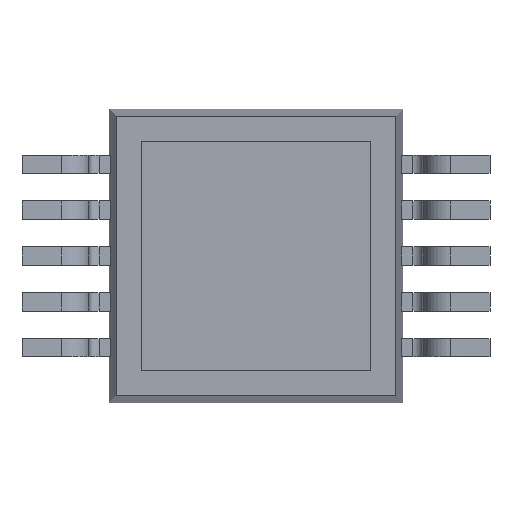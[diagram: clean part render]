
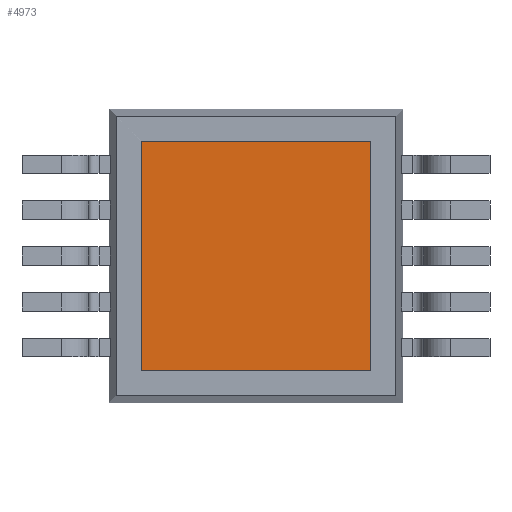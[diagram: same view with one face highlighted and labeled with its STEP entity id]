
A CAD part, front view. The second image highlights one B-rep face of the part: STEP entity #4973.
In plain terms, the highlighted planar face has unit normal (0, -1, 0).
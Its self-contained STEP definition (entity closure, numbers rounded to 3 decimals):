
#1 = VECTOR ( 'NONE', #2236, 1000. ) ;
#313 = LINE ( 'NONE', #2177, #323 ) ;
#323 = VECTOR ( 'NONE', #2182, 1000. ) ;
#329 = LINE ( 'NONE', #2187, #335 ) ;
#335 = VECTOR ( 'NONE', #2188, 1000. ) ;
#379 = LINE ( 'NONE', #2218, #385 ) ;
#385 = VECTOR ( 'NONE', #2219, 1000. ) ;
#411 = LINE ( 'NONE', #2239, #1 ) ;
#1003 = VERTEX_POINT ( 'NONE', #2393 ) ;
#1004 = VERTEX_POINT ( 'NONE', #2385 ) ;
#1005 = VERTEX_POINT ( 'NONE', #2388 ) ;
#1104 = VERTEX_POINT ( 'NONE', #3988 ) ;
#1253 = EDGE_LOOP ( 'NONE', ( #1527, #1534, #1523, #1511 ) ) ;
#1511 = ORIENTED_EDGE ( 'NONE', *, *, #5696, .T. ) ;
#1523 = ORIENTED_EDGE ( 'NONE', *, *, #5693, .T. ) ;
#1527 = ORIENTED_EDGE ( 'NONE', *, *, #5710, .T. ) ;
#1534 = ORIENTED_EDGE ( 'NONE', *, *, #5720, .T. ) ;
#2177 = CARTESIAN_POINT ( 'NONE',  ( -1.25, 0., 1.25 ) ) ;
#2182 = DIRECTION ( 'NONE',  ( 0., 0., -1. ) ) ;
#2187 = CARTESIAN_POINT ( 'NONE',  ( -1.25, 0., -1.25 ) ) ;
#2188 = DIRECTION ( 'NONE',  ( 1., 0., 0. ) ) ;
#2218 = CARTESIAN_POINT ( 'NONE',  ( 1.25, 0., 1.25 ) ) ;
#2219 = DIRECTION ( 'NONE',  ( 0., 0., 1. ) ) ;
#2236 = DIRECTION ( 'NONE',  ( -1., 0., 0. ) ) ;
#2239 = CARTESIAN_POINT ( 'NONE',  ( -1.25, 0., 1.25 ) ) ;
#2385 = CARTESIAN_POINT ( 'NONE',  ( 1.25, 0., -1.25 ) ) ;
#2388 = CARTESIAN_POINT ( 'NONE',  ( -1.25, 0., -1.25 ) ) ;
#2393 = CARTESIAN_POINT ( 'NONE',  ( 1.25, 0., 1.25 ) ) ;
#3988 = CARTESIAN_POINT ( 'NONE',  ( -1.25, 0., 1.25 ) ) ;
#4260 = PLANE ( 'NONE',  #6542 ) ;
#4280 = CARTESIAN_POINT ( 'NONE',  ( 0., 0., 0. ) ) ;
#4281 = DIRECTION ( 'NONE',  ( 0., 1., 0. ) ) ;
#4282 = DIRECTION ( 'NONE',  ( 0., 0., 1. ) ) ;
#4692 = FACE_OUTER_BOUND ( 'NONE', #1253, .T. ) ;
#4973 = ADVANCED_FACE ( 'NONE', ( #4692 ), #4260, .F. ) ;
#5693 = EDGE_CURVE ( 'NONE', #1104, #1005, #313, .T. ) ;
#5696 = EDGE_CURVE ( 'NONE', #1005, #1004, #329, .T. ) ;
#5710 = EDGE_CURVE ( 'NONE', #1004, #1003, #379, .T. ) ;
#5720 = EDGE_CURVE ( 'NONE', #1003, #1104, #411, .T. ) ;
#6542 = AXIS2_PLACEMENT_3D ( 'NONE', #4280, #4281, #4282 ) ;
